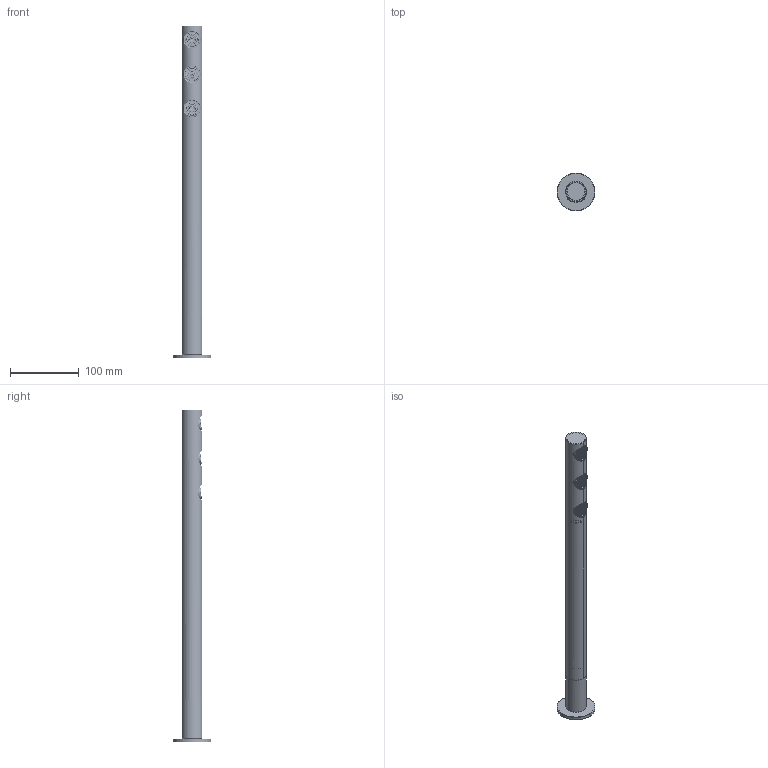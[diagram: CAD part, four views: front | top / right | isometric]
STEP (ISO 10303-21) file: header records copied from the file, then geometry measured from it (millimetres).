
FILE_DESCRIPTION((''),'2;1');
FILE_NAME('F5912_FILE_3D','2020-07-03T',('ivanv'),(''),'CREO PARAMETRIC BY PTC INC, 2016260','CREO PARAMETRIC BY PTC INC, 2016260','');
FILE_SCHEMA(('CONFIG_CONTROL_DESIGN'));
Products named in the file (1): F5912_FILE_3D
Bounding box: 55 x 55 x 482 mm (x, y, z)
Volume: 142409 mm3; surface area: 119369.7 mm2
Topology: 1 solids, 1 shells, 10063 faces, 26300 edges, 17272 vertices
Faces by surface type: plane 6367, bspline 2259, cone 995, torus 228, cylinder 142, extrusion 66, sphere 6
Entity records: 515205 total; most frequent: CARTESIAN_POINT 294904, ORIENTED_EDGE 52596, DIRECTION 33089, EDGE_CURVE 26298, VERTEX_POINT 17272, B_SPLINE_CURVE_WITH_KNOTS 11780, VECTOR 11687, LINE 11621
